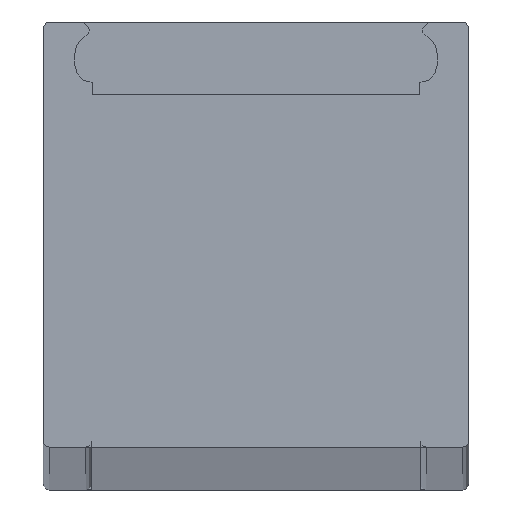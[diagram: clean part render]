
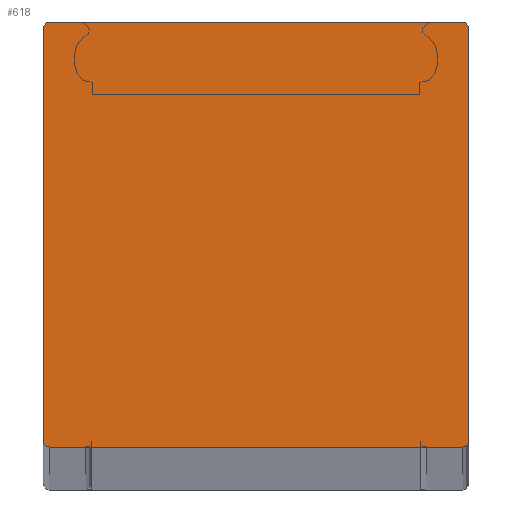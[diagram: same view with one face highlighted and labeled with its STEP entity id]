
A CAD part, top view. The second image highlights one B-rep face of the part: STEP entity #618.
In plain terms, the highlighted planar face has unit normal (0, 0, 1).
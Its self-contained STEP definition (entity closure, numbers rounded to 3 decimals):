
#3 = LINE ( 'NONE', #264, #1452 ) ;
#12 = CARTESIAN_POINT ( 'NONE',  ( 0.25, 0., 1008. ) ) ;
#44 = PLANE ( 'NONE',  #84 ) ;
#75 = ORIENTED_EDGE ( 'NONE', *, *, #671, .T. ) ;
#84 = AXIS2_PLACEMENT_3D ( 'NONE', #529, #1019, #175 ) ;
#112 = AXIS2_PLACEMENT_3D ( 'NONE', #854, #1710, #708 ) ;
#174 = CARTESIAN_POINT ( 'NONE',  ( 17.509, 0.25, 1008. ) ) ;
#175 = DIRECTION ( 'NONE',  ( 1., 0., 0. ) ) ;
#178 = EDGE_CURVE ( 'NONE', #1138, #1131, #571, .T. ) ;
#192 = CIRCLE ( 'NONE', #112, 0.25 ) ;
#204 = EDGE_CURVE ( 'NONE', #581, #403, #192, .T. ) ;
#227 = ORIENTED_EDGE ( 'NONE', *, *, #204, .T. ) ;
#264 = CARTESIAN_POINT ( 'NONE',  ( 17.259, 17.5, 1008. ) ) ;
#267 = ORIENTED_EDGE ( 'NONE', *, *, #1641, .T. ) ;
#342 = VERTEX_POINT ( 'NONE', #1312 ) ;
#373 = DIRECTION ( 'NONE',  ( 0., -1., 0. ) ) ;
#383 = CIRCLE ( 'NONE', #1537, 0.25 ) ;
#388 = EDGE_CURVE ( 'NONE', #630, #908, #962, .T. ) ;
#403 = VERTEX_POINT ( 'NONE', #481 ) ;
#423 = AXIS2_PLACEMENT_3D ( 'NONE', #597, #1451, #463 ) ;
#425 = ORIENTED_EDGE ( 'NONE', *, *, #616, .T. ) ;
#463 = DIRECTION ( 'NONE',  ( 1., 0., 0. ) ) ;
#481 = CARTESIAN_POINT ( 'NONE',  ( 0.25, 0., 1008. ) ) ;
#524 = CARTESIAN_POINT ( 'NONE',  ( 0., 0.25, 1008. ) ) ;
#529 = CARTESIAN_POINT ( 'NONE',  ( 17.259, 0.25, 1008. ) ) ;
#532 = CARTESIAN_POINT ( 'NONE',  ( 17.509, 0.25, 1008. ) ) ;
#562 = CARTESIAN_POINT ( 'NONE',  ( 17.259, 0., 1008. ) ) ;
#571 = CIRCLE ( 'NONE', #423, 0.25 ) ;
#581 = VERTEX_POINT ( 'NONE', #524 ) ;
#597 = CARTESIAN_POINT ( 'NONE',  ( 0.25, 17.25, 1008. ) ) ;
#616 = EDGE_CURVE ( 'NONE', #342, #619, #383, .T. ) ;
#618 = ADVANCED_FACE ( 'NONE', ( #1471 ), #44, .T. ) ;
#619 = VERTEX_POINT ( 'NONE', #1590 ) ;
#630 = VERTEX_POINT ( 'NONE', #562 ) ;
#639 = CARTESIAN_POINT ( 'NONE',  ( 0.25, 17.5, 1008. ) ) ;
#671 = EDGE_CURVE ( 'NONE', #619, #1138, #3, .T. ) ;
#708 = DIRECTION ( 'NONE',  ( 1., 0., 0. ) ) ;
#728 = CARTESIAN_POINT ( 'NONE',  ( 17.259, 17.25, 1008. ) ) ;
#734 = EDGE_CURVE ( 'NONE', #403, #630, #1025, .T. ) ;
#782 = DIRECTION ( 'NONE',  ( 1., 0., 0. ) ) ;
#809 = ORIENTED_EDGE ( 'NONE', *, *, #388, .T. ) ;
#843 = ORIENTED_EDGE ( 'NONE', *, *, #1700, .T. ) ;
#854 = CARTESIAN_POINT ( 'NONE',  ( 0.25, 0.25, 1008. ) ) ;
#878 = DIRECTION ( 'NONE',  ( 1., 0., 0. ) ) ;
#905 = ORIENTED_EDGE ( 'NONE', *, *, #178, .T. ) ;
#908 = VERTEX_POINT ( 'NONE', #174 ) ;
#953 = DIRECTION ( 'NONE',  ( -1., 0., 0. ) ) ;
#962 = CIRCLE ( 'NONE', #1723, 0.25 ) ;
#1019 = DIRECTION ( 'NONE',  ( 0., 0., 1. ) ) ;
#1025 = LINE ( 'NONE', #12, #1362 ) ;
#1080 = CARTESIAN_POINT ( 'NONE',  ( 0., 17.25, 1008. ) ) ;
#1117 = LINE ( 'NONE', #1080, #1702 ) ;
#1131 = VERTEX_POINT ( 'NONE', #1205 ) ;
#1138 = VERTEX_POINT ( 'NONE', #639 ) ;
#1172 = ORIENTED_EDGE ( 'NONE', *, *, #734, .T. ) ;
#1205 = CARTESIAN_POINT ( 'NONE',  ( 0., 17.25, 1008. ) ) ;
#1312 = CARTESIAN_POINT ( 'NONE',  ( 17.509, 17.25, 1008. ) ) ;
#1350 = DIRECTION ( 'NONE',  ( 0., 0., 1. ) ) ;
#1362 = VECTOR ( 'NONE', #1659, 1000. ) ;
#1363 = VECTOR ( 'NONE', #1373, 1000. ) ;
#1373 = DIRECTION ( 'NONE',  ( 0., 1., 0. ) ) ;
#1451 = DIRECTION ( 'NONE',  ( 0., 0., 1. ) ) ;
#1452 = VECTOR ( 'NONE', #953, 1000. ) ;
#1471 = FACE_OUTER_BOUND ( 'NONE', #1826, .T. ) ;
#1537 = AXIS2_PLACEMENT_3D ( 'NONE', #728, #1733, #878 ) ;
#1590 = CARTESIAN_POINT ( 'NONE',  ( 17.259, 17.5, 1008. ) ) ;
#1641 = EDGE_CURVE ( 'NONE', #908, #342, #1792, .T. ) ;
#1659 = DIRECTION ( 'NONE',  ( 1., 0., 0. ) ) ;
#1700 = EDGE_CURVE ( 'NONE', #1131, #581, #1117, .T. ) ;
#1702 = VECTOR ( 'NONE', #373, 1000. ) ;
#1710 = DIRECTION ( 'NONE',  ( 0., 0., 1. ) ) ;
#1723 = AXIS2_PLACEMENT_3D ( 'NONE', #1781, #1350, #782 ) ;
#1733 = DIRECTION ( 'NONE',  ( 0., 0., 1. ) ) ;
#1781 = CARTESIAN_POINT ( 'NONE',  ( 17.259, 0.25, 1008. ) ) ;
#1792 = LINE ( 'NONE', #532, #1363 ) ;
#1826 = EDGE_LOOP ( 'NONE', ( #809, #267, #425, #75, #905, #843, #227, #1172 ) ) ;
